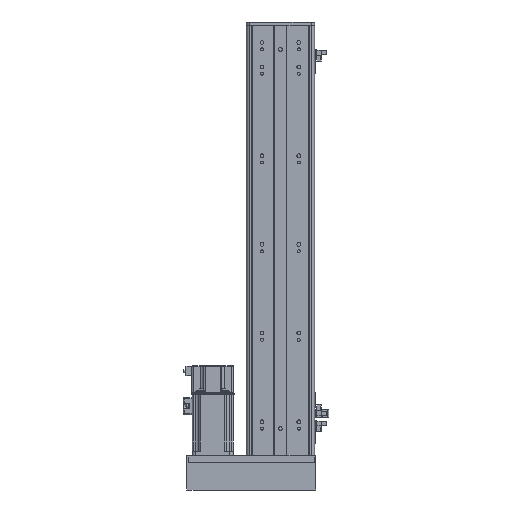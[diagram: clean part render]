
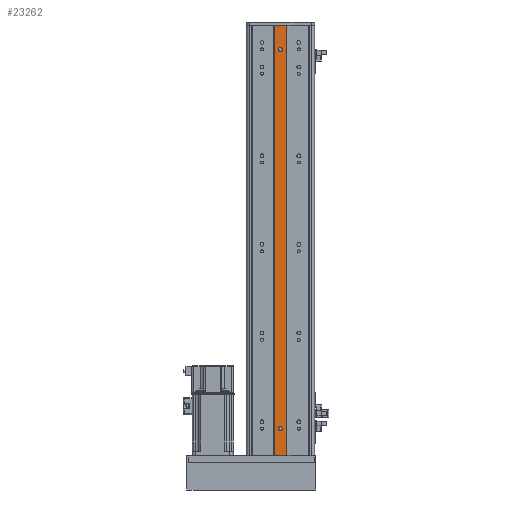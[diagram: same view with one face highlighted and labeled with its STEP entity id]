
A CAD part, front view. The second image highlights one B-rep face of the part: STEP entity #23262.
In plain terms, the highlighted planar face has unit normal (0, -1, 0).
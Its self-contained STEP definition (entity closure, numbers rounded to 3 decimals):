
#601 = ORIENTED_EDGE ( 'NONE', *, *, #56177, .T. ) ;
#1458 = AXIS2_PLACEMENT_3D ( 'NONE', #24327, #29222, #66585 ) ;
#1795 = VECTOR ( 'NONE', #10932, 1000. ) ;
#2813 = CARTESIAN_POINT ( 'NONE',  ( -2.5, 1.309, 725.5 ) ) ;
#2842 = DIRECTION ( 'NONE',  ( 0., 0., -1. ) ) ;
#4342 = EDGE_LOOP ( 'NONE', ( #11891, #41054, #47762, #601 ) ) ;
#4624 = VERTEX_POINT ( 'NONE', #35323 ) ;
#5550 = LINE ( 'NONE', #66681, #42311 ) ;
#6745 = LINE ( 'NONE', #48545, #20974 ) ;
#7616 = DIRECTION ( 'NONE',  ( 0., 1., 0. ) ) ;
#8897 = FACE_BOUND ( 'NONE', #4342, .T. ) ;
#9467 = DIRECTION ( 'NONE',  ( 0., 1., 0. ) ) ;
#9773 = CIRCLE ( 'NONE', #50125, 2.5 ) ;
#10197 = VERTEX_POINT ( 'NONE', #33691 ) ;
#10377 = VERTEX_POINT ( 'NONE', #56035 ) ;
#10526 = LINE ( 'NONE', #37448, #40578 ) ;
#10932 = DIRECTION ( 'NONE',  ( 0., 0., -1. ) ) ;
#11384 = EDGE_CURVE ( 'NONE', #10197, #28125, #12672, .T. ) ;
#11427 = AXIS2_PLACEMENT_3D ( 'NONE', #53165, #37973, #37293 ) ;
#11891 = ORIENTED_EDGE ( 'NONE', *, *, #37506, .T. ) ;
#12672 = LINE ( 'NONE', #16020, #1795 ) ;
#12703 = AXIS2_PLACEMENT_3D ( 'NONE', #55683, #7616, #61077 ) ;
#16020 = CARTESIAN_POINT ( 'NONE',  ( -9., 1.309, 761. ) ) ;
#16663 = ORIENTED_EDGE ( 'NONE', *, *, #26109, .F. ) ;
#18858 = FACE_OUTER_BOUND ( 'NONE', #58329, .T. ) ;
#19409 = AXIS2_PLACEMENT_3D ( 'NONE', #68682, #64483, #57157 ) ;
#19443 = CARTESIAN_POINT ( 'NONE',  ( 9., 1.309, 130. ) ) ;
#19502 = DIRECTION ( 'NONE',  ( 0., 0., 1. ) ) ;
#20099 = CIRCLE ( 'NONE', #11427, 2.5 ) ;
#20974 = VECTOR ( 'NONE', #44818, 1000. ) ;
#22360 = VERTEX_POINT ( 'NONE', #32019 ) ;
#23262 = ADVANCED_FACE ( 'NONE', ( #8897, #60647, #18858 ), #56987, .F. ) ;
#24327 = CARTESIAN_POINT ( 'NONE',  ( 0., 1.309, 170. ) ) ;
#25023 = CARTESIAN_POINT ( 'NONE',  ( -9., 1.309, 130. ) ) ;
#25132 = CARTESIAN_POINT ( 'NONE',  ( 0., 1.309, 726.5 ) ) ;
#26109 = EDGE_CURVE ( 'NONE', #53498, #28125, #5550, .T. ) ;
#26186 = ORIENTED_EDGE ( 'NONE', *, *, #11384, .T. ) ;
#26751 = DIRECTION ( 'NONE',  ( 1., 0., 0. ) ) ;
#28125 = VERTEX_POINT ( 'NONE', #25023 ) ;
#29222 = DIRECTION ( 'NONE',  ( 0., 1., 0. ) ) ;
#30620 = VERTEX_POINT ( 'NONE', #68200 ) ;
#32019 = CARTESIAN_POINT ( 'NONE',  ( 2.5, 1.309, 726.5 ) ) ;
#32868 = LINE ( 'NONE', #62769, #44503 ) ;
#33691 = CARTESIAN_POINT ( 'NONE',  ( -9., 1.309, 761. ) ) ;
#34694 = DIRECTION ( 'NONE',  ( -1., 0., 0. ) ) ;
#35323 = CARTESIAN_POINT ( 'NONE',  ( -2.5, 1.309, 170. ) ) ;
#35882 = EDGE_CURVE ( 'NONE', #10197, #50057, #10526, .T. ) ;
#37293 = DIRECTION ( 'NONE',  ( 0., 0., 1. ) ) ;
#37448 = CARTESIAN_POINT ( 'NONE',  ( -9., 1.309, 761. ) ) ;
#37506 = EDGE_CURVE ( 'NONE', #50238, #56879, #32868, .T. ) ;
#37843 = CARTESIAN_POINT ( 'NONE',  ( 9., 1.309, 761. ) ) ;
#37973 = DIRECTION ( 'NONE',  ( 0., 1., 0. ) ) ;
#38430 = CIRCLE ( 'NONE', #12703, 2.5 ) ;
#40578 = VECTOR ( 'NONE', #26751, 1000. ) ;
#41054 = ORIENTED_EDGE ( 'NONE', *, *, #44535, .T. ) ;
#42311 = VECTOR ( 'NONE', #34694, 1000. ) ;
#44503 = VECTOR ( 'NONE', #58037, 1000. ) ;
#44535 = EDGE_CURVE ( 'NONE', #56879, #22360, #9773, .T. ) ;
#44818 = DIRECTION ( 'NONE',  ( 0., 0., -1. ) ) ;
#47709 = EDGE_CURVE ( 'NONE', #50057, #53498, #63882, .T. ) ;
#47762 = ORIENTED_EDGE ( 'NONE', *, *, #55540, .T. ) ;
#48545 = CARTESIAN_POINT ( 'NONE',  ( 2.5, 1.309, 761. ) ) ;
#49619 = ORIENTED_EDGE ( 'NONE', *, *, #55988, .T. ) ;
#50057 = VERTEX_POINT ( 'NONE', #37843 ) ;
#50125 = AXIS2_PLACEMENT_3D ( 'NONE', #25132, #9467, #19502 ) ;
#50238 = VERTEX_POINT ( 'NONE', #2813 ) ;
#52499 = ORIENTED_EDGE ( 'NONE', *, *, #35882, .F. ) ;
#53165 = CARTESIAN_POINT ( 'NONE',  ( 0., 1.309, 170. ) ) ;
#53283 = CIRCLE ( 'NONE', #1458, 2.5 ) ;
#53498 = VERTEX_POINT ( 'NONE', #19443 ) ;
#55540 = EDGE_CURVE ( 'NONE', #22360, #10377, #6745, .T. ) ;
#55683 = CARTESIAN_POINT ( 'NONE',  ( 0., 1.309, 725.5 ) ) ;
#55988 = EDGE_CURVE ( 'NONE', #30620, #4624, #20099, .T. ) ;
#56035 = CARTESIAN_POINT ( 'NONE',  ( 2.5, 1.309, 725.5 ) ) ;
#56177 = EDGE_CURVE ( 'NONE', #10377, #50238, #38430, .T. ) ;
#56620 = ORIENTED_EDGE ( 'NONE', *, *, #47709, .F. ) ;
#56738 = CARTESIAN_POINT ( 'NONE',  ( 9., 1.309, 761. ) ) ;
#56879 = VERTEX_POINT ( 'NONE', #58244 ) ;
#56987 = PLANE ( 'NONE',  #19409 ) ;
#57157 = DIRECTION ( 'NONE',  ( 0., 0., 1. ) ) ;
#57981 = ORIENTED_EDGE ( 'NONE', *, *, #64157, .T. ) ;
#58037 = DIRECTION ( 'NONE',  ( 0., 0., 1. ) ) ;
#58244 = CARTESIAN_POINT ( 'NONE',  ( -2.5, 1.309, 726.5 ) ) ;
#58329 = EDGE_LOOP ( 'NONE', ( #16663, #56620, #52499, #26186 ) ) ;
#60295 = EDGE_LOOP ( 'NONE', ( #49619, #57981 ) ) ;
#60647 = FACE_BOUND ( 'NONE', #60295, .T. ) ;
#61077 = DIRECTION ( 'NONE',  ( 0., 0., 1. ) ) ;
#62211 = VECTOR ( 'NONE', #2842, 1000. ) ;
#62769 = CARTESIAN_POINT ( 'NONE',  ( -2.5, 1.309, 761. ) ) ;
#63882 = LINE ( 'NONE', #56738, #62211 ) ;
#64157 = EDGE_CURVE ( 'NONE', #4624, #30620, #53283, .T. ) ;
#64483 = DIRECTION ( 'NONE',  ( 0., 1., 0. ) ) ;
#66585 = DIRECTION ( 'NONE',  ( 0., 0., 1. ) ) ;
#66681 = CARTESIAN_POINT ( 'NONE',  ( 0., 1.309, 130. ) ) ;
#68200 = CARTESIAN_POINT ( 'NONE',  ( 2.5, 1.309, 170. ) ) ;
#68682 = CARTESIAN_POINT ( 'NONE',  ( 0., 1.309, 761. ) ) ;
